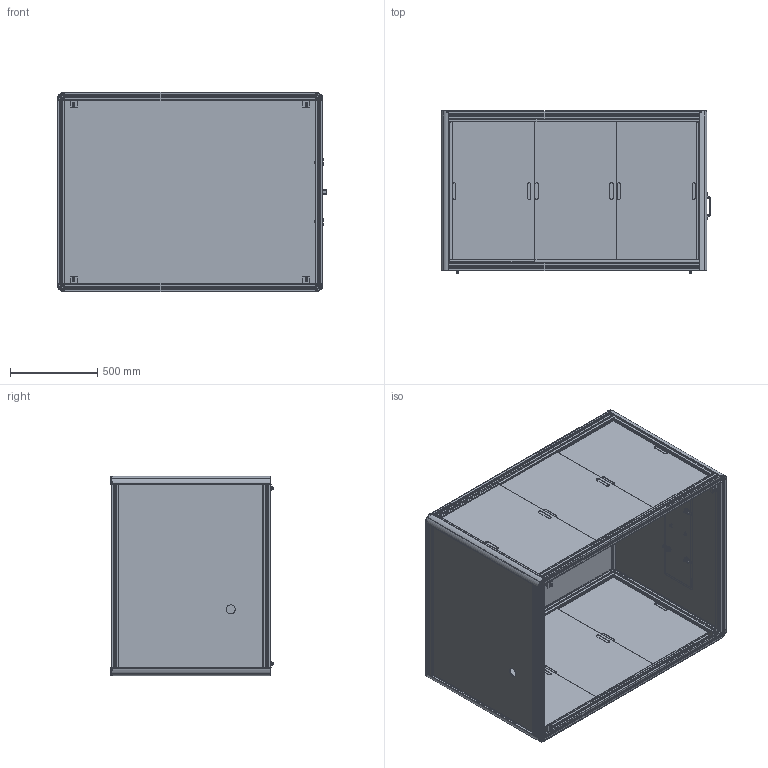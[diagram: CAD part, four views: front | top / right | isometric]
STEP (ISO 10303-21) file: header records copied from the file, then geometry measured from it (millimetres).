
FILE_DESCRIPTION(/* description */ (''),/* implementation_level */ '2;1');
FILE_NAME(/* name */ 'Z:\WEBSITE\DREAMWEAVER\MiniTec\application_pages\Enclosures_2016\REMOVABLE PANEL INSET INTO PANEL\AM100620-1.stp',/* time_stamp */ '2020-11-12T13:40:04-05:00',/* author */ ('amoles'),/* organization */ (''),/* preprocessor_version */ 'ST-DEVELOPER v18',/* originating_system */ 'Autodesk Inventor 2020',/* authorisation */ '');
FILE_SCHEMA (('AUTOMOTIVE_DESIGN { 1 0 10303 214 3 1 1 }'));
Length unit declared in the file: inch
Products named in the file (36): AM100620-1; hori depth; LEG; HORI WIDTH; 21.1349_7 ANGLE 45 GD-Z; 21.1349 ANGLE 45 GD-Z; 21.1280 ; 21.1127 ; 21.1351/2; AM100620-1-3; AM100620-1-4; AM041516-2-2; 22.0996/1 ; SP011013-1 MAIN ASSY; SP011013-1 GP3 HORI; SP011013-1 PVC BAR; SP011013-1 GP3 VERT; AM100620-1-1; removable panel assy; AM100620-1-5; 21.1092/1 ; 21.1092/3 HANDLE 120 GRAY; 21.1202; 21.1351 ; 21.9301; 21.9301/1; 1000-129_ASM; 1000-129_PRT; 1000-128_PRT; 1000-03_PRT; 1000-277-01_PRT; 21.9301/2; 1000-101_PRT; 1000-02-JB; 92168A111; 21.1093/18 
Assembly tree (68 placements, depth 6):
  AM100620-1
    LEG  x4
    HORI WIDTH  x4
    SP011013-1 MAIN ASSY  x2
      SP011013-1 GP3 HORI
      SP011013-1 PVC BAR
      SP011013-1 GP3 VERT
      AM100620-1-1
    22.0996/1   x4
    hori depth  x4
    21.1349_7 ANGLE 45 GD-Z  x4
      21.1349 ANGLE 45 GD-Z
      21.1280 
      21.1127 
      21.1351/2
    AM100620-1-3
    AM100620-1-4
    AM041516-2-2
    removable panel assy
      AM100620-1-5
      21.1092/1 
        21.1092/3 HANDLE 120 GRAY
        21.1202  x2
        21.1351   x2
      21.9301  x4
        21.9301/1
          1000-129_ASM
            1000-129_PRT
            1000-128_PRT
          1000-03_PRT
          1000-277-01_PRT
        21.9301/2
          1000-101_PRT
          1000-02-JB
          92168A111
      21.1093/18   x4
Bounding box: 1546.6 x 932.7 x 1143 mm (x, y, z)
Volume: 43889797.4 mm3; surface area: 21678886.2 mm2
Topology: 107 solids, 115 shells, 4110 faces, 10711 edges, 6965 vertices
Faces by surface type: plane 2643, cylinder 1030, bspline 178, cone 122, torus 106, sphere 31
Full cylindrical faces by diameter (mm): 5 x4, 5.5 x4, 6 x4, 6.35 x6, 8 x22, 8.2 x4, 8.4 x8, 8.5 x4, 9.9 x4, 10 x8, 10.2 x4, 10.5 x4, 11 x4, 12.8 x4, 13 x12, 13.5 x4, 15.2 x4, 16 x16, 16.1 x4, 19.8 x4, 20 x4, 20.376 x8, 21 x4, 22 x4, 28 x4, 50.8 x1
Entity records: 39064 total; most frequent: CARTESIAN_POINT 9624, ORIENTED_EDGE 5803, DIRECTION 5794, EDGE_CURVE 2905, LINE 1980, VECTOR 1980, AXIS2_PLACEMENT_3D 1907, VERTEX_POINT 1891
